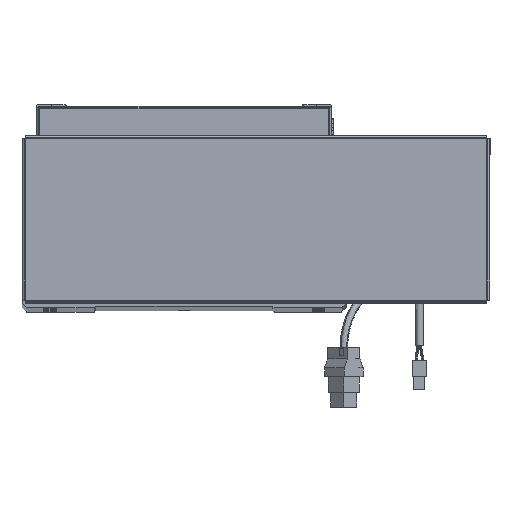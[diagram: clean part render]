
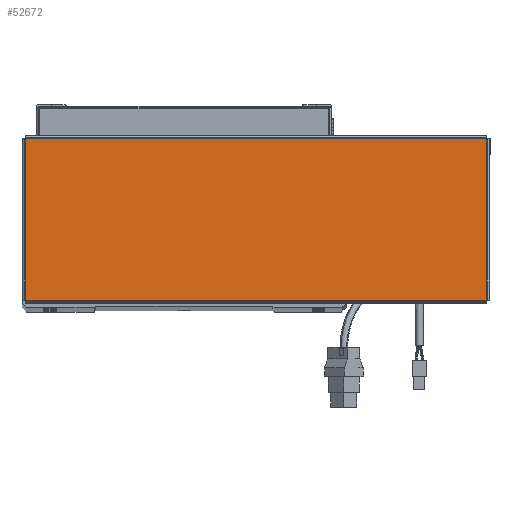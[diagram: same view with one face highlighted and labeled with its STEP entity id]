
A CAD part, top view. The second image highlights one B-rep face of the part: STEP entity #52672.
In plain terms, the highlighted planar face has unit normal (0, 0, 1).
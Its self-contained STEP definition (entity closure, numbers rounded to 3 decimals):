
#2147 = EDGE_CURVE ( 'NONE', #59934, #58118, #2515, .T. ) ;
#2200 = DIRECTION ( 'NONE',  ( 0., -1., 0. ) ) ;
#2515 = LINE ( 'NONE', #68320, #15876 ) ;
#4867 = LINE ( 'NONE', #51907, #53324 ) ;
#7766 = DIRECTION ( 'NONE',  ( 1., 0., 0. ) ) ;
#8312 = EDGE_LOOP ( 'NONE', ( #9591, #36798, #23969, #30672 ) ) ;
#9431 = DIRECTION ( 'NONE',  ( -1., 0., 0. ) ) ;
#9591 = ORIENTED_EDGE ( 'NONE', *, *, #50569, .T. ) ;
#14540 = EDGE_CURVE ( 'NONE', #58118, #35597, #22214, .T. ) ;
#15174 = AXIS2_PLACEMENT_3D ( 'NONE', #50509, #18002, #7766 ) ;
#15876 = VECTOR ( 'NONE', #9431, 1000. ) ;
#18002 = DIRECTION ( 'NONE',  ( 0., 0., 1. ) ) ;
#18698 = PLANE ( 'NONE',  #15174 ) ;
#18709 = CARTESIAN_POINT ( 'NONE',  ( -156.513, 54.793, 0. ) ) ;
#19537 = CARTESIAN_POINT ( 'NONE',  ( 156.513, 54.763, 0. ) ) ;
#20620 = DIRECTION ( 'NONE',  ( 0., 1., 0. ) ) ;
#21531 = VERTEX_POINT ( 'NONE', #69015 ) ;
#22214 = LINE ( 'NONE', #18709, #29741 ) ;
#23371 = CARTESIAN_POINT ( 'NONE',  ( -156.513, 54.763, 0. ) ) ;
#23969 = ORIENTED_EDGE ( 'NONE', *, *, #2147, .T. ) ;
#25889 = EDGE_CURVE ( 'NONE', #21531, #59934, #4867, .T. ) ;
#29741 = VECTOR ( 'NONE', #2200, 1000. ) ;
#30672 = ORIENTED_EDGE ( 'NONE', *, *, #14540, .T. ) ;
#35597 = VERTEX_POINT ( 'NONE', #36555 ) ;
#36555 = CARTESIAN_POINT ( 'NONE',  ( -156.513, -54.763, 0. ) ) ;
#36798 = ORIENTED_EDGE ( 'NONE', *, *, #25889, .T. ) ;
#40337 = LINE ( 'NONE', #68920, #67105 ) ;
#50509 = CARTESIAN_POINT ( 'NONE',  ( 0., 0., 0. ) ) ;
#50569 = EDGE_CURVE ( 'NONE', #35597, #21531, #40337, .T. ) ;
#51907 = CARTESIAN_POINT ( 'NONE',  ( 156.513, -54.793, 0. ) ) ;
#52672 = ADVANCED_FACE ( 'NONE', ( #58488 ), #18698, .T. ) ;
#53324 = VECTOR ( 'NONE', #20620, 1000. ) ;
#58118 = VERTEX_POINT ( 'NONE', #23371 ) ;
#58488 = FACE_OUTER_BOUND ( 'NONE', #8312, .T. ) ;
#59934 = VERTEX_POINT ( 'NONE', #19537 ) ;
#60021 = DIRECTION ( 'NONE',  ( 1., 0., 0. ) ) ;
#67105 = VECTOR ( 'NONE', #60021, 1000. ) ;
#68320 = CARTESIAN_POINT ( 'NONE',  ( 156.543, 54.763, 0. ) ) ;
#68920 = CARTESIAN_POINT ( 'NONE',  ( -156.543, -54.763, 0. ) ) ;
#69015 = CARTESIAN_POINT ( 'NONE',  ( 156.513, -54.763, 0. ) ) ;
